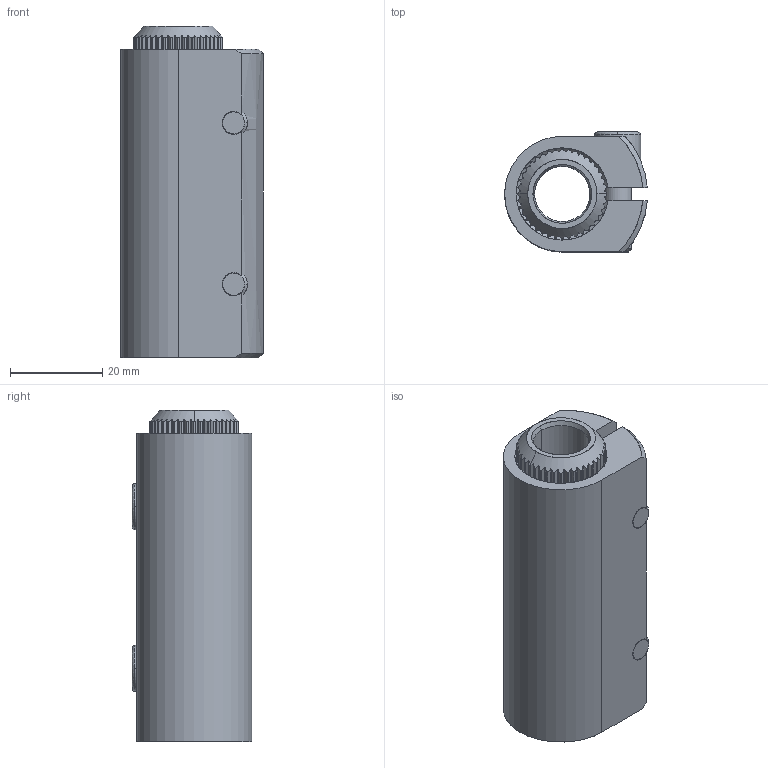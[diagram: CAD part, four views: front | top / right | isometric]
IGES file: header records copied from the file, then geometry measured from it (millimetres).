
Start section: START RECORD GO HERE.
Global section: file name: ZU11_STRAIGHT JOINT 40T.igs; native system: DASSAULT SYSTEMES CATIA Version 5-6 Release 2017 - www.3ds.com; preprocessor: V5-6R2017_5.27.6.0.09-13-2018.20.00; author: kani-; organization: DESKTOP-5OU850M; date: 20230313.203622; units: millimetre
Bounding box: 30.94 x 26 x 72 mm (x, y, z)
Surface area: 19022.8 mm2 (no closed solid volume)
Topology: 0 solids, 0 shells, 439 faces, 3210 edges, 3206 vertices
Faces by surface type: revolution 407, plane 32
